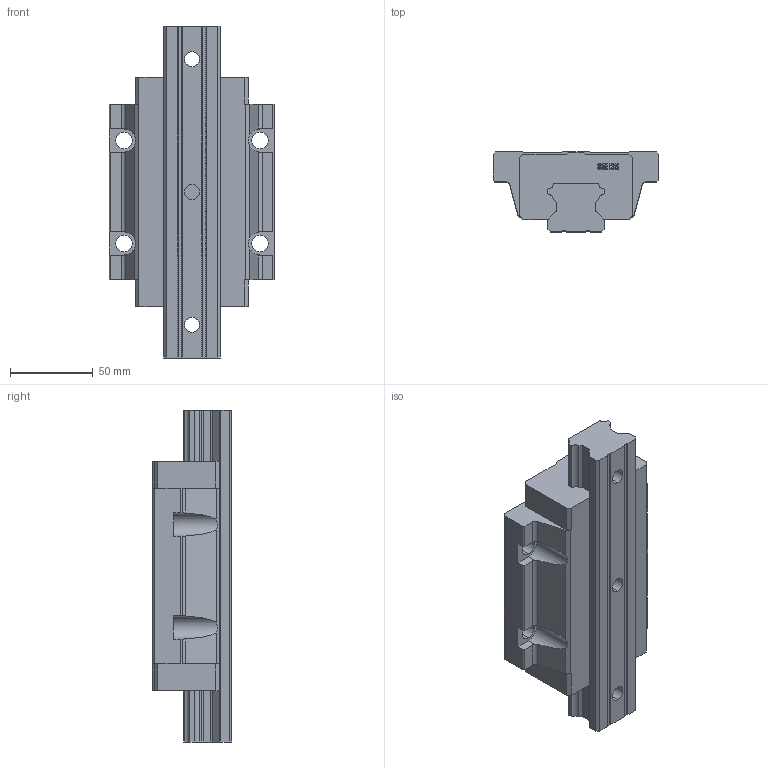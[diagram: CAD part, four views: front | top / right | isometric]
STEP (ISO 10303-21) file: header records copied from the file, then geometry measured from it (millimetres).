
FILE_DESCRIPTION (( 'STEP AP203' ), '1' );
FILE_NAME ('SMH30AL.STEP', '2019-09-23T03:44:19', ( 'pgos' ), ( '' ), 'SwSTEP 2.0', 'SolidWorks 2014', '' );
FILE_SCHEMA (( 'CONFIG_CONTROL_DESIGN' ));
Length unit declared in the file: millimetre
Products named in the file (3): HGW35AL; SMH35; SMH30AL
Assembly tree (2 placements, depth 2):
  SMH30AL
    HGW35AL
    SMH35
Bounding box: 100 x 48 x 200 mm (x, y, z)
Volume: 518638.9 mm3; surface area: 79902.8 mm2
Topology: 2 solids, 2 shells, 236 faces, 672 edges, 448 vertices
Faces by surface type: plane 168, cylinder 48, bspline 20
Entity records: 9861 total; most frequent: CARTESIAN_POINT 3473, ORIENTED_EDGE 1344, DIRECTION 1146, EDGE_CURVE 672, VECTOR 520, LINE 520, VERTEX_POINT 448, AXIS2_PLACEMENT_3D 313
